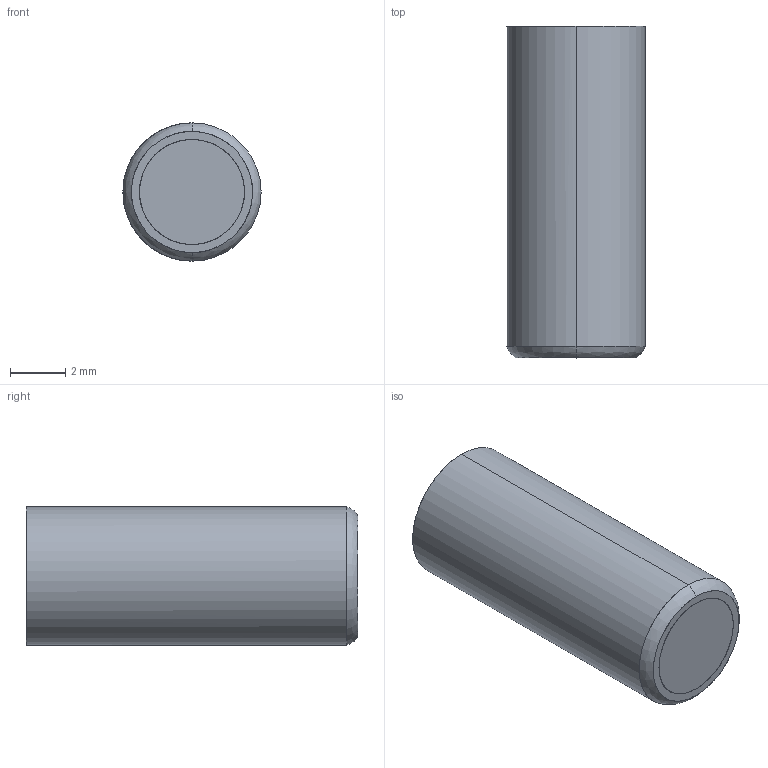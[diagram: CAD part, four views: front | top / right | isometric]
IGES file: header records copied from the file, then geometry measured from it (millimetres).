
Start section: START RECORD GO HERE.
Global section: file name: fa0530sf.igs; native system: DASSAULT SYSTEMES CATIA V5 R20 - www.3ds.com; preprocessor: CATIA Version 5 Release 20 ; author: Utente; organization: NB04-ASUS; date: 20201108.084202; units: millimetre
Bounding box: 5 x 12 x 5 mm (x, y, z)
Surface area: 600.4 mm2 (no closed solid volume)
Topology: 0 solids, 0 shells, 474 faces, 2202 edges, 2198 vertices
Faces by surface type: bspline 180, revolution 169, plane 125
